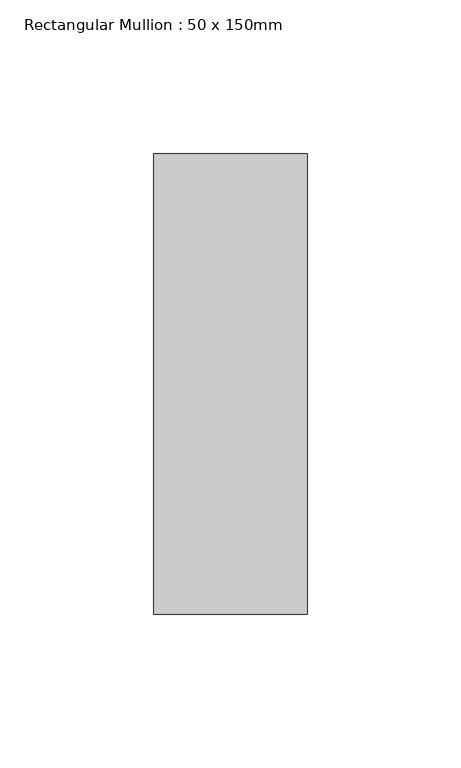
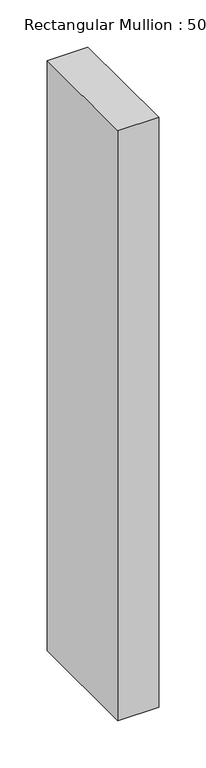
"""IFC4 building model written with IfcOpenShell, lengths in millimetres: member geometry, Rectangular Mullion : 50 x 150mm."""

from ifc_helpers import new_model, si_unit, frame, origin, place, context, project, spatial, polyline, outline, extrude, source, transform, mapped, element, save


def rectangular_mullion_50_x_150mm_3a621c38(model_context):
    return source(origin(), model_context, "Body", "SweptSolid", [
        extrude(outline(polyline([(25.0, 75.0), (25.0, -75.0), (-25.0, -75.0), (-25.0, 75.0), (25.0, 75.0)])), frame((0.0, 0.0, -763.5076433), z_axis=(0.0, 0.0, 1.0), x_axis=(1.0, 0.0, 0.0)), (0.0, 0.0, 1.0), 763.5076433),
    ])


if __name__ == "__main__":
    model = new_model("IFC4")
    model_context = context("Model", 3, world=origin())
    ifc_project = project(units=[si_unit("LENGTHUNIT", "METRE", prefix="MILLI")], contexts=[model_context])
    site = spatial("IfcSite", under=ifc_project)
    building = spatial("IfcBuilding", under=site)
    placement = place(None, origin())
    rectangular_mullion_50_x_150mm_shape = rectangular_mullion_50_x_150mm_3a621c38(model_context)
    element("IfcMember", 1, ObjectType="Rectangular Mullion : 50 x 150mm", at=placement, inside=building, context=model_context, shape_type="MappedRepresentation", body=[
        mapped(rectangular_mullion_50_x_150mm_shape, transform((0.0, 0.0, 0.0), x_axis=(1.0, 0.0, 0.0), y_axis=(0.0, 1.0, 0.0), z_axis=(0.0, 0.0, 1.0))),
    ])
    save(model, "model.ifc")
